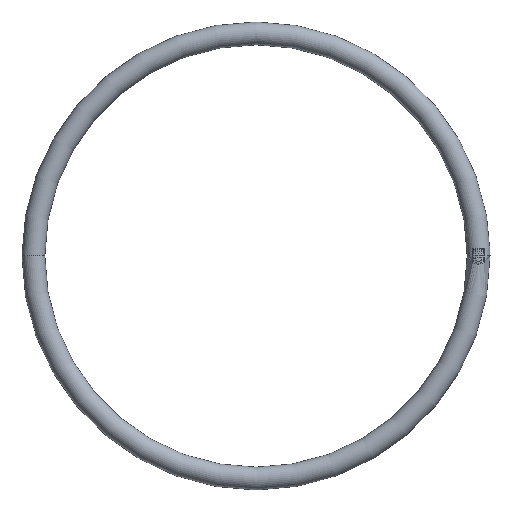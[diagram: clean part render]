
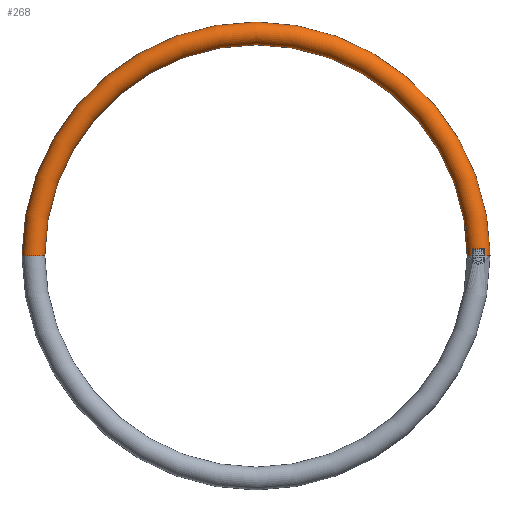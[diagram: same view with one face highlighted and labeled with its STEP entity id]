
A CAD part, top view. The second image highlights one B-rep face of the part: STEP entity #268.
In plain terms, the highlighted toroidal (fillet/blend) face has major radius 19.5 mm and minor radius 1 mm.
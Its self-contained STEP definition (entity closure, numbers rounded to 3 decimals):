
#221 = ORIENTED_EDGE ( 'NONE', *, *, #279, .T. ) ;
#222 = ORIENTED_EDGE ( 'NONE', *, *, #223, .T. ) ;
#223 = EDGE_CURVE ( 'NONE', #307, #224, #924, .T. ) ;
#224 = VERTEX_POINT ( 'NONE', #913 ) ;
#268 = ADVANCED_FACE ( 'NONE', ( #1011 ), #1005, .T. ) ;
#269 = ORIENTED_EDGE ( 'NONE', *, *, #276, .F. ) ;
#270 = ORIENTED_EDGE ( 'NONE', *, *, #271, .F. ) ;
#271 = EDGE_CURVE ( 'NONE', #302, #299, #1001, .T. ) ;
#273 = ORIENTED_EDGE ( 'NONE', *, *, #274, .T. ) ;
#274 = EDGE_CURVE ( 'NONE', #224, #275, #990, .T. ) ;
#275 = VERTEX_POINT ( 'NONE', #1041 ) ;
#276 = EDGE_CURVE ( 'NONE', #299, #306, #991, .T. ) ;
#279 = EDGE_CURVE ( 'NONE', #302, #307, #1032, .T. ) ;
#280 = EDGE_LOOP ( 'NONE', ( #269, #270, #221, #222, #273, #281, #284, #288 ) ) ;
#281 = ORIENTED_EDGE ( 'NONE', *, *, #282, .T. ) ;
#282 = EDGE_CURVE ( 'NONE', #275, #283, #1026, .T. ) ;
#283 = VERTEX_POINT ( 'NONE', #1027 ) ;
#284 = ORIENTED_EDGE ( 'NONE', *, *, #285, .T. ) ;
#285 = EDGE_CURVE ( 'NONE', #283, #286, #1069, .T. ) ;
#286 = VERTEX_POINT ( 'NONE', #1068 ) ;
#288 = ORIENTED_EDGE ( 'NONE', *, *, #289, .T. ) ;
#289 = EDGE_CURVE ( 'NONE', #286, #306, #1062, .T. ) ;
#299 = VERTEX_POINT ( 'NONE', #1106 ) ;
#302 = VERTEX_POINT ( 'NONE', #1100 ) ;
#306 = VERTEX_POINT ( 'NONE', #1099 ) ;
#307 = VERTEX_POINT ( 'NONE', #1098 ) ;
#913 = CARTESIAN_POINT ( 'NONE',  ( 19., 0., 0.866 ) ) ;
#914 = DIRECTION ( 'NONE',  ( -1., 0., 0. ) ) ;
#915 = DIRECTION ( 'NONE',  ( 0., 1., 0. ) ) ;
#916 = CARTESIAN_POINT ( 'NONE',  ( 19.5, 0., 0. ) ) ;
#917 = AXIS2_PLACEMENT_3D ( 'NONE', #916, #915, #914 ) ;
#924 = CIRCLE ( 'NONE', #917, 1. ) ;
#990 = B_SPLINE_CURVE_WITH_KNOTS ( 'NONE', 3,
 ( #1040, #1039, #1038, #1037 ),
 .UNSPECIFIED., .F., .F.,
 ( 4, 4 ),
 ( 0.466, 1. ),
 .UNSPECIFIED. ) ;
#991 = CIRCLE ( 'NONE', #1036, 20.5 ) ;
#997 = DIRECTION ( 'NONE',  ( 0., 0., -1. ) ) ;
#998 = DIRECTION ( 'NONE',  ( 0., -1., 0. ) ) ;
#999 = CARTESIAN_POINT ( 'NONE',  ( -19.5, 0., 0. ) ) ;
#1000 = AXIS2_PLACEMENT_3D ( 'NONE', #999, #998, #997 ) ;
#1001 = CIRCLE ( 'NONE', #1000, 1. ) ;
#1002 = DIRECTION ( 'NONE',  ( -1., 0., 0. ) ) ;
#1003 = DIRECTION ( 'NONE',  ( 0., 0., -1. ) ) ;
#1004 = AXIS2_PLACEMENT_3D ( 'NONE', #1006, #1003, #1002 ) ;
#1005 = TOROIDAL_SURFACE ( 'NONE', #1004, 19.5, 1. ) ;
#1006 = CARTESIAN_POINT ( 'NONE',  ( 0., 0., 0. ) ) ;
#1011 = FACE_OUTER_BOUND ( 'NONE', #280, .T. ) ;
#1019 = CARTESIAN_POINT ( 'NONE',  ( 19.341, 0.637, 0.989 ) ) ;
#1020 = CARTESIAN_POINT ( 'NONE',  ( 19.258, 0.637, 0.974 ) ) ;
#1021 = CARTESIAN_POINT ( 'NONE',  ( 19.21, 0.637, 0.961 ) ) ;
#1022 = CARTESIAN_POINT ( 'NONE',  ( 19.086, 0.637, 0.919 ) ) ;
#1023 = CARTESIAN_POINT ( 'NONE',  ( 19.031, 0.637, 0.89 ) ) ;
#1024 = CARTESIAN_POINT ( 'NONE',  ( 19., 0.637, 0.872 ) ) ;
#1025 = CARTESIAN_POINT ( 'NONE',  ( 19.5, 0., 0. ) ) ;
#1026 = B_SPLINE_CURVE_WITH_KNOTS ( 'NONE', 3,
 ( #1024, #1023, #1022, #1021, #1020, #1019, #1078, #1077, #1076, #1075, #1074, #1073, #1072, #1071, #1070 ),
 .UNSPECIFIED., .F., .F.,
 ( 4, 2, 2, 2, 1, 2, 2, 4 ),
 ( 0., 0.25, 0.375, 0.438, 0.469, 0.484, 0.5, 1. ),
 .UNSPECIFIED. ) ;
#1027 = CARTESIAN_POINT ( 'NONE',  ( 20., 0.637, 0.86 ) ) ;
#1028 = DIRECTION ( 'NONE',  ( -1., 0., 0. ) ) ;
#1029 = DIRECTION ( 'NONE',  ( 0., 0., -1. ) ) ;
#1030 = CARTESIAN_POINT ( 'NONE',  ( 0., 0., 0. ) ) ;
#1031 = AXIS2_PLACEMENT_3D ( 'NONE', #1030, #1029, #1028 ) ;
#1032 = CIRCLE ( 'NONE', #1031, 18.5 ) ;
#1033 = DIRECTION ( 'NONE',  ( -1., 0., 0. ) ) ;
#1034 = DIRECTION ( 'NONE',  ( 0., 0., -1. ) ) ;
#1035 = CARTESIAN_POINT ( 'NONE',  ( 0., 0., 0. ) ) ;
#1036 = AXIS2_PLACEMENT_3D ( 'NONE', #1035, #1034, #1033 ) ;
#1037 = CARTESIAN_POINT ( 'NONE',  ( 19., 0.637, 0.872 ) ) ;
#1038 = CARTESIAN_POINT ( 'NONE',  ( 19., 0.424, 0.868 ) ) ;
#1039 = CARTESIAN_POINT ( 'NONE',  ( 19., 0.212, 0.866 ) ) ;
#1040 = CARTESIAN_POINT ( 'NONE',  ( 19., 0., 0.866 ) ) ;
#1041 = CARTESIAN_POINT ( 'NONE',  ( 19., 0.637, 0.872 ) ) ;
#1059 = DIRECTION ( 'NONE',  ( -1., 0., 0. ) ) ;
#1060 = DIRECTION ( 'NONE',  ( 0., 1., 0. ) ) ;
#1061 = AXIS2_PLACEMENT_3D ( 'NONE', #1025, #1060, #1059 ) ;
#1062 = CIRCLE ( 'NONE', #1061, 1. ) ;
#1064 = CARTESIAN_POINT ( 'NONE',  ( 20., 0., 0.866 ) ) ;
#1065 = CARTESIAN_POINT ( 'NONE',  ( 20., 0.212, 0.866 ) ) ;
#1066 = CARTESIAN_POINT ( 'NONE',  ( 20., 0.425, 0.864 ) ) ;
#1067 = CARTESIAN_POINT ( 'NONE',  ( 20., 0.637, 0.86 ) ) ;
#1068 = CARTESIAN_POINT ( 'NONE',  ( 20., 0., 0.866 ) ) ;
#1069 = B_SPLINE_CURVE_WITH_KNOTS ( 'NONE', 3,
 ( #1067, #1066, #1065, #1064 ),
 .UNSPECIFIED., .F., .F.,
 ( 4, 4 ),
 ( 0., 0.534 ),
 .UNSPECIFIED. ) ;
#1070 = CARTESIAN_POINT ( 'NONE',  ( 20., 0.637, 0.86 ) ) ;
#1071 = CARTESIAN_POINT ( 'NONE',  ( 19.882, 0.637, 0.93 ) ) ;
#1072 = CARTESIAN_POINT ( 'NONE',  ( 19.713, 0.637, 0.997 ) ) ;
#1073 = CARTESIAN_POINT ( 'NONE',  ( 19.495, 0.637, 1. ) ) ;
#1074 = CARTESIAN_POINT ( 'NONE',  ( 19.484, 0.637, 1. ) ) ;
#1075 = CARTESIAN_POINT ( 'NONE',  ( 19.467, 0.637, 1. ) ) ;
#1076 = CARTESIAN_POINT ( 'NONE',  ( 19.442, 0.637, 0.999 ) ) ;
#1077 = CARTESIAN_POINT ( 'NONE',  ( 19.418, 0.637, 0.998 ) ) ;
#1078 = CARTESIAN_POINT ( 'NONE',  ( 19.371, 0.637, 0.993 ) ) ;
#1098 = CARTESIAN_POINT ( 'NONE',  ( 18.5, 0., 0. ) ) ;
#1099 = CARTESIAN_POINT ( 'NONE',  ( 20.5, 0., 0. ) ) ;
#1100 = CARTESIAN_POINT ( 'NONE',  ( -18.5, 0., 0. ) ) ;
#1106 = CARTESIAN_POINT ( 'NONE',  ( -20.5, 0., 0. ) ) ;
